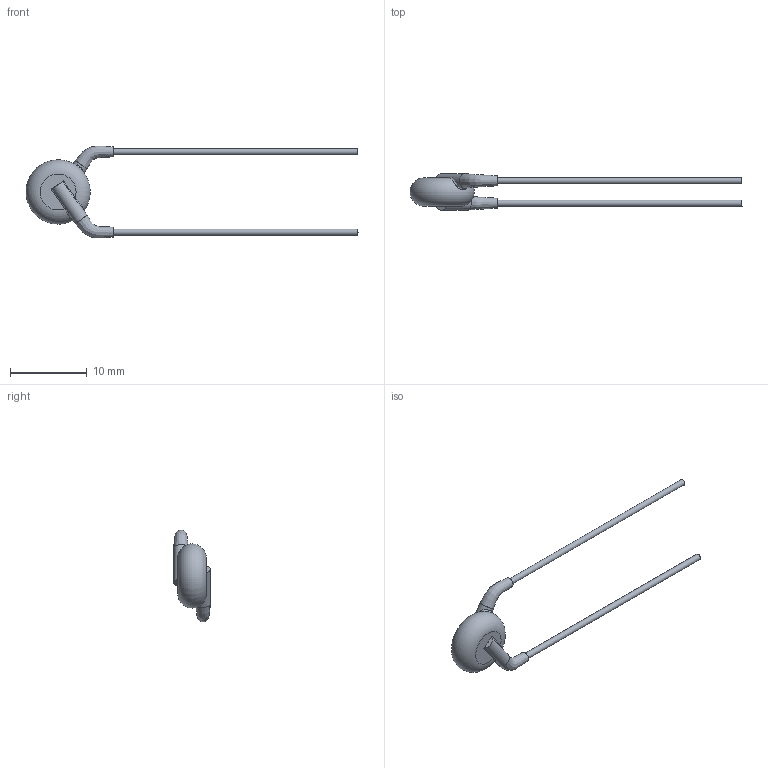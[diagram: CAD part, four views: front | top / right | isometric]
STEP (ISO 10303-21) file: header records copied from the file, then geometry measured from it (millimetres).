
FILE_DESCRIPTION(/* description */ (''),/* implementation_level */ '2;1');
FILE_NAME(/* name */ 'I:\Marketing\M6t1\3D-Models\Zchng-Werk-3\Upload for homepage\Ceramite\P3K\440LQ22-R\440LQ22-R.stp',/* time_stamp */ '2016-11-10T13:19:54+01:00',/* author */ ('sheinrich'),/* organization */ (''),/* preprocessor_version */ 'ST-DEVELOPER v16.1',/* originating_system */ 'Autodesk Inventor 2016',/* authorisation */ '');
FILE_SCHEMA (('AUTOMOTIVE_DESIGN { 1 0 10303 214 3 1 1 }'));
Length unit declared in the file: millimetre
Products named in the file (1): 440LQ22-R
Bounding box: 43.4 x 4.8 x 11.99 mm (x, y, z)
Volume: 235.4 mm3; surface area: 391.3 mm2
Topology: 1 solids, 1 shells, 25 faces, 56 edges, 35 vertices
Faces by surface type: cylinder 10, plane 10, bspline 4, torus 1
Full cylindrical faces by diameter (mm): 0.81 x2, 1.9 x2
Entity records: 1591 total; most frequent: CARTESIAN_POINT 1018, DIRECTION 106, ORIENTED_EDGE 96, EDGE_CURVE 48, AXIS2_PLACEMENT_3D 44, EDGE_LOOP 32, VERTEX_POINT 32, STYLED_ITEM 26
